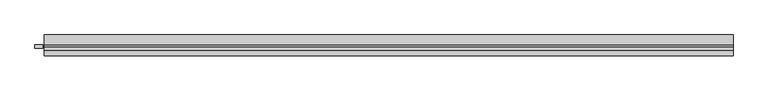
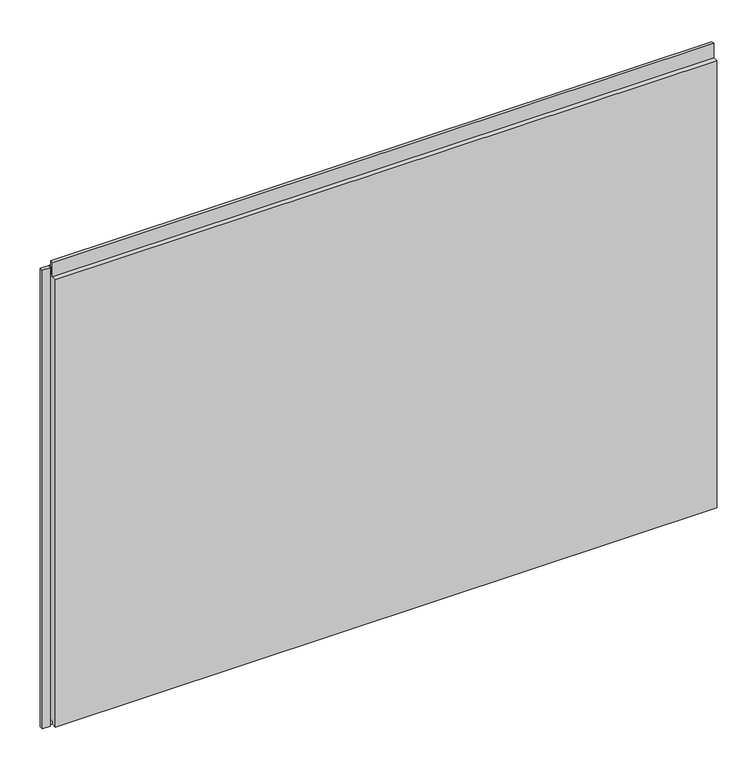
"""IFC4 building model written with IfcOpenShell, lengths in millimetres: plate geometry, Trimo_Qbiss Screen_Normal Panel-HORIZONTAL : HR - B."""

from ifc_helpers import new_model, si_unit, frame, origin, place, context, project, spatial, polyline, outline, extrude, source, transform, mapped, element, save


def plate_4dd33a9e(model_context):
    return source(origin(), model_context, "Body", "SweptSolid", [
        extrude(outline(polyline([(-840.5, 76.5978162), (-840.5, 67.8978162), (-859.5, 67.8978162), (-859.5, 76.5978162), (-840.5, 76.5978162)])), frame((0.0, 0.0, -1.0), z_axis=(0.0, 0.0, 1.0), x_axis=(1.0, 0.0, 0.0)), (0.0, 0.0, 1.0), 1200.0),
        extrude(outline(polyline([(800.0, 76.0), (800.0, 71.0), (-837.5, 71.0), (-837.5, 76.0), (800.0, 76.0)])), frame((0.0, 0.0, 1178.0), z_axis=(0.0, 0.0, 1.0), x_axis=(1.0, 0.0, 0.0)), (0.0, 0.0, 1.0), 21.0),
        extrude(outline(polyline([(71.0, 1177.0), (100.0, 1177.0), (100.0, 0.0), (72.0, 0.0), (72.0, 15.5), (62.0, 15.5), (62.0, 7.0), (50.0, 7.0), (50.0, 1177.0), (63.0, 1177.0), (63.0, 1214.5), (71.0, 1214.5), (71.0, 1177.0)])), frame((-837.5, 0.0, 0.0), z_axis=(1.0, 0.0, 0.0), x_axis=(0.0, 1.0, 0.0)), (0.0, 0.0, 1.0), 1637.5),
    ])


if __name__ == "__main__":
    model = new_model("IFC4")
    model_context = context("Model", 3, world=origin())
    ifc_project = project(units=[si_unit("LENGTHUNIT", "METRE", prefix="MILLI")], contexts=[model_context])
    site = spatial("IfcSite", under=ifc_project)
    building = spatial("IfcBuilding", under=site)
    placement = place(None, origin())
    plate_shape = plate_4dd33a9e(model_context)
    element("IfcPlate", 1, ObjectType="Trimo_Qbiss Screen_Normal Panel-HORIZONTAL : HR - B", at=placement, inside=building, context=model_context, shape_type="MappedRepresentation", body=[
        mapped(plate_shape, transform((0.0, 0.0, 0.0), x_axis=(1.0, 0.0, 0.0), y_axis=(0.0, 1.0, 0.0), z_axis=(0.0, 0.0, 1.0))),
    ])
    save(model, "model.ifc")
